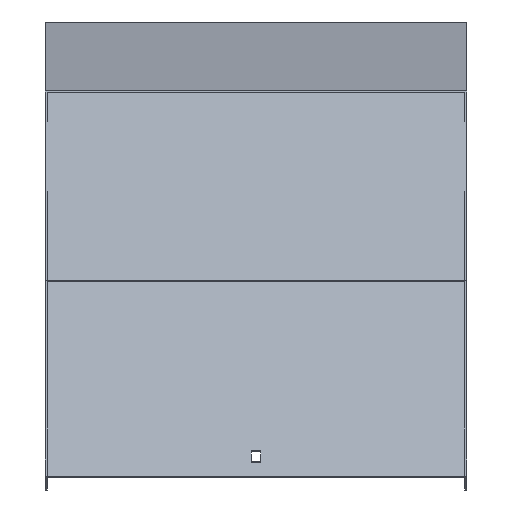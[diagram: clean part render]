
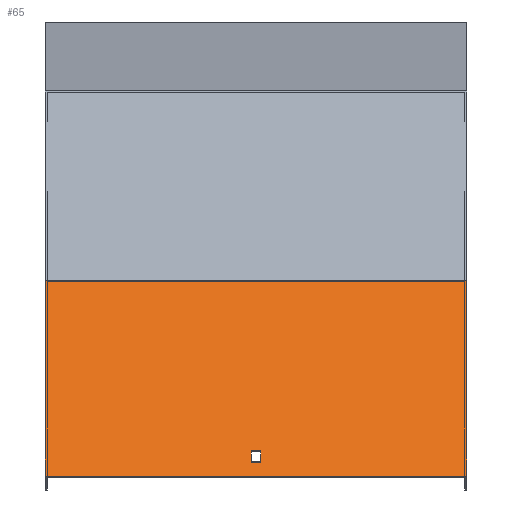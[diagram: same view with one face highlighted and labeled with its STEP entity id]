
A CAD part, top view. The second image highlights one B-rep face of the part: STEP entity #65.
In plain terms, the highlighted planar face has unit normal (0, 0.5, 0.866).
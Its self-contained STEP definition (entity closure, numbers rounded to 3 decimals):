
#14 = ORIENTED_EDGE ( 'NONE', *, *, #339, .T. ) ;
#23 = EDGE_CURVE ( 'NONE', #238, #107, #638, .T. ) ;
#27 = CARTESIAN_POINT ( 'NONE',  ( -151.5, -166.416, 485.515 ) ) ;
#28 = FACE_BOUND ( 'NONE', #680, .T. ) ;
#47 = EDGE_CURVE ( 'NONE', #777, #903, #279, .T. ) ;
#54 = VECTOR ( 'NONE', #831, 1000. ) ;
#61 = DIRECTION ( 'NONE',  ( 1., 0., 0. ) ) ;
#65 = ADVANCED_FACE ( 'NONE', ( #28, #239 ), #312, .F. ) ;
#67 = VECTOR ( 'NONE', #553, 1000. ) ;
#89 = VERTEX_POINT ( 'NONE', #709 ) ;
#102 = VERTEX_POINT ( 'NONE', #757 ) ;
#106 = CARTESIAN_POINT ( 'NONE',  ( 151.5, -296.868, 560.832 ) ) ;
#107 = VERTEX_POINT ( 'NONE', #542 ) ;
#121 = AXIS2_PLACEMENT_3D ( 'NONE', #780, #369, #391 ) ;
#136 = LINE ( 'NONE', #165, #383 ) ;
#147 = VERTEX_POINT ( 'NONE', #496 ) ;
#148 = EDGE_CURVE ( 'NONE', #191, #107, #350, .T. ) ;
#157 = VECTOR ( 'NONE', #340, 1000. ) ;
#165 = CARTESIAN_POINT ( 'NONE',  ( 151.5, -166.416, 485.515 ) ) ;
#191 = VERTEX_POINT ( 'NONE', #420 ) ;
#204 = CARTESIAN_POINT ( 'NONE',  ( 151.5, -289.074, 556.332 ) ) ;
#209 = EDGE_CURVE ( 'NONE', #102, #147, #721, .T. ) ;
#210 = CARTESIAN_POINT ( 'NONE',  ( 3.25, -168.696, 486.832 ) ) ;
#238 = VERTEX_POINT ( 'NONE', #27 ) ;
#239 = FACE_OUTER_BOUND ( 'NONE', #364, .T. ) ;
#242 = CARTESIAN_POINT ( 'NONE',  ( 151.5, -168.696, 486.832 ) ) ;
#273 = DIRECTION ( 'NONE',  ( 0., 0.866, -0.5 ) ) ;
#279 = LINE ( 'NONE', #204, #422 ) ;
#312 = PLANE ( 'NONE',  #121 ) ;
#321 = ORIENTED_EDGE ( 'NONE', *, *, #209, .T. ) ;
#339 = EDGE_CURVE ( 'NONE', #147, #777, #349, .T. ) ;
#340 = DIRECTION ( 'NONE',  ( -1., 0., 0. ) ) ;
#349 = LINE ( 'NONE', #958, #906 ) ;
#350 = LINE ( 'NONE', #425, #952 ) ;
#364 = EDGE_LOOP ( 'NONE', ( #595, #527, #932, #759 ) ) ;
#369 = DIRECTION ( 'NONE',  ( 0., -0.5, -0.866 ) ) ;
#381 = DIRECTION ( 'NONE',  ( -1., 0., 0. ) ) ;
#383 = VECTOR ( 'NONE', #381, 1000. ) ;
#391 = DIRECTION ( 'NONE',  ( 0., 0.866, -0.5 ) ) ;
#420 = CARTESIAN_POINT ( 'NONE',  ( 151.5, -307.26, 566.832 ) ) ;
#422 = VECTOR ( 'NONE', #61, 1000. ) ;
#425 = CARTESIAN_POINT ( 'NONE',  ( 151.5, -307.26, 566.832 ) ) ;
#430 = DIRECTION ( 'NONE',  ( -1., 0., 0. ) ) ;
#441 = EDGE_CURVE ( 'NONE', #89, #238, #136, .T. ) ;
#457 = CARTESIAN_POINT ( 'NONE',  ( 3.25, -289.074, 556.332 ) ) ;
#470 = LINE ( 'NONE', #242, #67 ) ;
#496 = CARTESIAN_POINT ( 'NONE',  ( -3.25, -296.868, 560.832 ) ) ;
#527 = ORIENTED_EDGE ( 'NONE', *, *, #148, .F. ) ;
#539 = CARTESIAN_POINT ( 'NONE',  ( -3.25, -289.074, 556.332 ) ) ;
#542 = CARTESIAN_POINT ( 'NONE',  ( -151.5, -307.26, 566.832 ) ) ;
#553 = DIRECTION ( 'NONE',  ( 0., -0.866, 0.5 ) ) ;
#566 = DIRECTION ( 'NONE',  ( 0., -0.866, 0.5 ) ) ;
#595 = ORIENTED_EDGE ( 'NONE', *, *, #23, .T. ) ;
#604 = EDGE_CURVE ( 'NONE', #89, #191, #470, .T. ) ;
#638 = LINE ( 'NONE', #946, #741 ) ;
#680 = EDGE_LOOP ( 'NONE', ( #713, #895, #321, #14 ) ) ;
#709 = CARTESIAN_POINT ( 'NONE',  ( 151.5, -166.416, 485.515 ) ) ;
#713 = ORIENTED_EDGE ( 'NONE', *, *, #47, .T. ) ;
#721 = LINE ( 'NONE', #106, #157 ) ;
#740 = LINE ( 'NONE', #210, #54 ) ;
#741 = VECTOR ( 'NONE', #566, 1000. ) ;
#757 = CARTESIAN_POINT ( 'NONE',  ( 3.25, -296.868, 560.832 ) ) ;
#759 = ORIENTED_EDGE ( 'NONE', *, *, #441, .T. ) ;
#777 = VERTEX_POINT ( 'NONE', #539 ) ;
#780 = CARTESIAN_POINT ( 'NONE',  ( 151.5, -168.696, 486.832 ) ) ;
#831 = DIRECTION ( 'NONE',  ( 0., -0.866, 0.5 ) ) ;
#895 = ORIENTED_EDGE ( 'NONE', *, *, #918, .T. ) ;
#903 = VERTEX_POINT ( 'NONE', #457 ) ;
#906 = VECTOR ( 'NONE', #273, 1000. ) ;
#918 = EDGE_CURVE ( 'NONE', #903, #102, #740, .T. ) ;
#932 = ORIENTED_EDGE ( 'NONE', *, *, #604, .F. ) ;
#946 = CARTESIAN_POINT ( 'NONE',  ( -151.5, -168.696, 486.832 ) ) ;
#952 = VECTOR ( 'NONE', #430, 1000. ) ;
#958 = CARTESIAN_POINT ( 'NONE',  ( -3.25, -168.696, 486.832 ) ) ;
